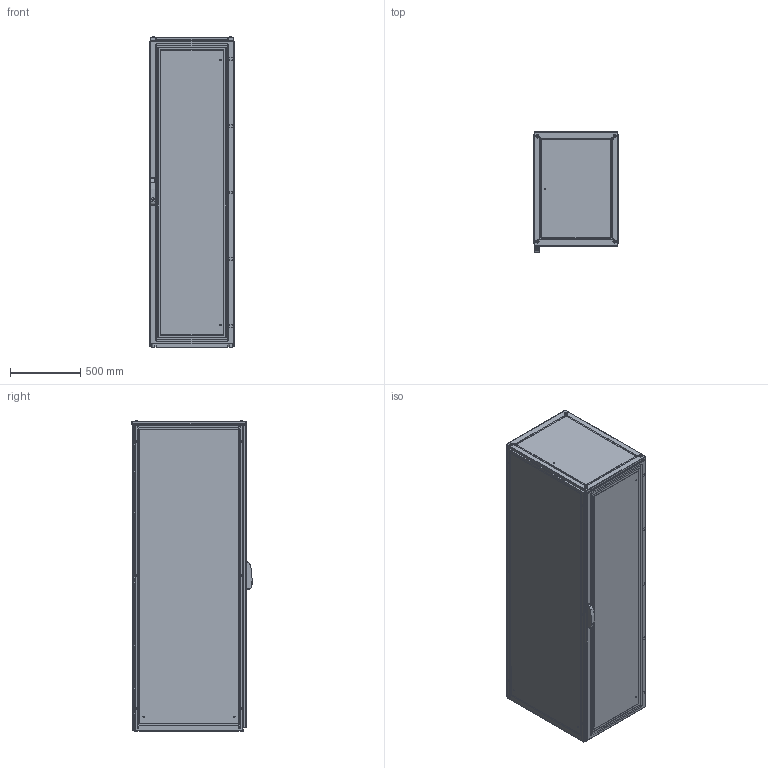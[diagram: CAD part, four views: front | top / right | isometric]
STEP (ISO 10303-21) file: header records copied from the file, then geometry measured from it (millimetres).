
FILE_DESCRIPTION(/* description */ ('STEP AP214'),/* implementation_level */ '2;1');
FILE_NAME(/* name */ 'ENUX062208PR-LOD350',/* time_stamp */ '2025-08-05T14:35:26+02:00',/* author */ ('License CC BY-ND 4.0'),/* organization */ ('CADENAS'),/* preprocessor_version */ 'ST-DEVELOPER v19.3',/* originating_system */ 'PARTsolutions',/* authorisation */ ' ');
FILE_SCHEMA (('AUTOMOTIVE_DESIGN {1 0 10303 214 3 1 1}'));
Length unit declared in the file: millimetre
Products named in the file (10): ENUX062208PR-LOD350; ENUX062208PR-LOD350_CON; ENUX062208PR-LOD350_floor1; ENUX062208PR-LOD350_floor2; Screw M12x30 architecture 350; ENUX062208PR-LOD350_side; ENUX062208PR-LOD350_top; ENUX062208PR-LOD350_back_door; ENUX062208PR-LOD350_door; ENUX062208PR-LOD350_handle
Assembly tree (18 placements, depth 2):
  ENUX062208PR-LOD350
    ENUX062208PR-LOD350_CON
    ENUX062208PR-LOD350_floor1  x2
    ENUX062208PR-LOD350_floor2  x5
    Screw M12x30 architecture 350  x4
    ENUX062208PR-LOD350_side  x2
    ENUX062208PR-LOD350_top
    ENUX062208PR-LOD350_back_door
    ENUX062208PR-LOD350_door
    ENUX062208PR-LOD350_handle
Bounding box: 612 x 857 x 2214.1 mm (x, y, z)
Volume: 23780268.7 mm3; surface area: 20702413.6 mm2
Topology: 18 solids, 18 shells, 1970 faces, 5545 edges, 3616 vertices
Faces by surface type: plane 992, cylinder 803, cone 83, torus 76, sphere 16
Full cylindrical faces by diameter (mm): 4.5 x144, 6 x14, 6.8 x8, 9 x9, 12 x16, 13 x4, 18 x1, 21 x4
Entity records: 50219 total; most frequent: DIRECTION 8701, CARTESIAN_POINT 8687, ORIENTED_EDGE 8160, EDGE_CURVE 4080, AXIS2_PLACEMENT_3D 3112, VERTEX_POINT 2857, LINE 2477, VECTOR 2477
